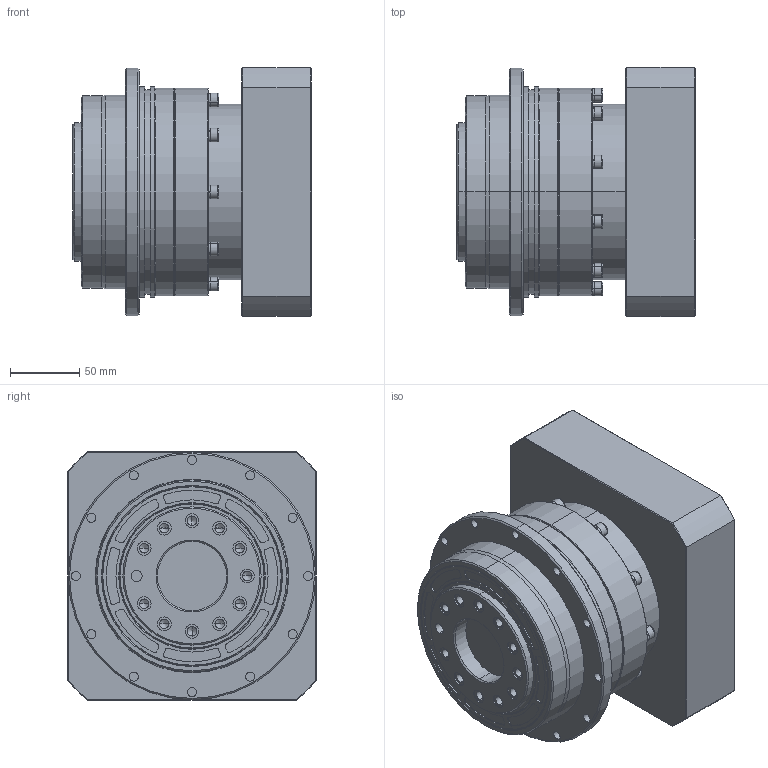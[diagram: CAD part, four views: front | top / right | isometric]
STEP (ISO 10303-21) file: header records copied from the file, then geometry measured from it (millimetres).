
FILE_DESCRIPTION (( 'STEP AP214' ), '1' );
FILE_NAME ('VRT-140-L1-P1 35-114.3-200-M12.STEP', '2023-08-16T02:09:01', ( '微软用户' ), ( '微软中国' ), 'SwSTEP 2.0', 'SolidWorks 2018', '' );
FILE_SCHEMA (( 'AUTOMOTIVE_DESIGN' ));
Length unit declared in the file: millimetre
Products named in the file (12): 一级整体太阳轮VRT-140D35外形图; 一级齿圈VRT-140外形图; hexagon socket head cap screws gb_GB_FASTENER_SCREWS_HSHCS M10X35-N; spring lock washers--normal type gb_GB_FASTENER_WASHER_SW 8; VRT-140-L1-P1 35-114.3-200-M12; 標杶D40 VRT-140-35謂蚚; hexagon socket head cap screws gb_GB_FASTENER_SCREWS_HSHCS M6X35-N; hex socket set screws with flat point gb_GB_FASTENER_SCREWS_HSFP M16X16-N; hexagon socket head cap screws gb_GB_FASTENER_SCREWS_HSHCS M8X30-N; 萇儂楊擘VRT-140-114.3-M12-200F180H47; spring lock washers--normal type gb_GB_FASTENER_WASHER_SW 6; 笢潔楊擘VRT-140俋倛芞
Assembly tree (39 placements, depth 2):
  VRT-140-L1-P1 35-114.3-200-M12
    一级齿圈VRT-140外形图
    一级整体太阳轮VRT-140D35外形图
    笢潔楊擘VRT-140俋倛芞
    spring lock washers--normal type gb_GB_FASTENER_WASHER_SW 6  x10
    hexagon socket head cap screws gb_GB_FASTENER_SCREWS_HSHCS M6X35-N  x10
    萇儂楊擘VRT-140-114.3-M12-200F180H47
    spring lock washers--normal type gb_GB_FASTENER_WASHER_SW 8  x6
    hexagon socket head cap screws gb_GB_FASTENER_SCREWS_HSHCS M8X30-N  x6
    標杶D40 VRT-140-35謂蚚
    hex socket set screws with flat point gb_GB_FASTENER_SCREWS_HSFP M16X16-N
    hexagon socket head cap screws gb_GB_FASTENER_SCREWS_HSHCS M10X35-N
Bounding box: 172.2 x 180 x 180 mm (x, y, z)
Volume: 3077863.6 mm3; surface area: 341215.2 mm2
Topology: 39 solids, 40 shells, 1148 faces, 2782 edges, 1715 vertices
Faces by surface type: cylinder 454, plane 450, cone 210, bspline 34
Entity records: 20660 total; most frequent: CARTESIAN_POINT 3859, DIRECTION 3704, ORIENTED_EDGE 3184, EDGE_CURVE 1592, AXIS2_PLACEMENT_3D 1506, VERTEX_POINT 1029, CIRCLE 812, EDGE_LOOP 797
